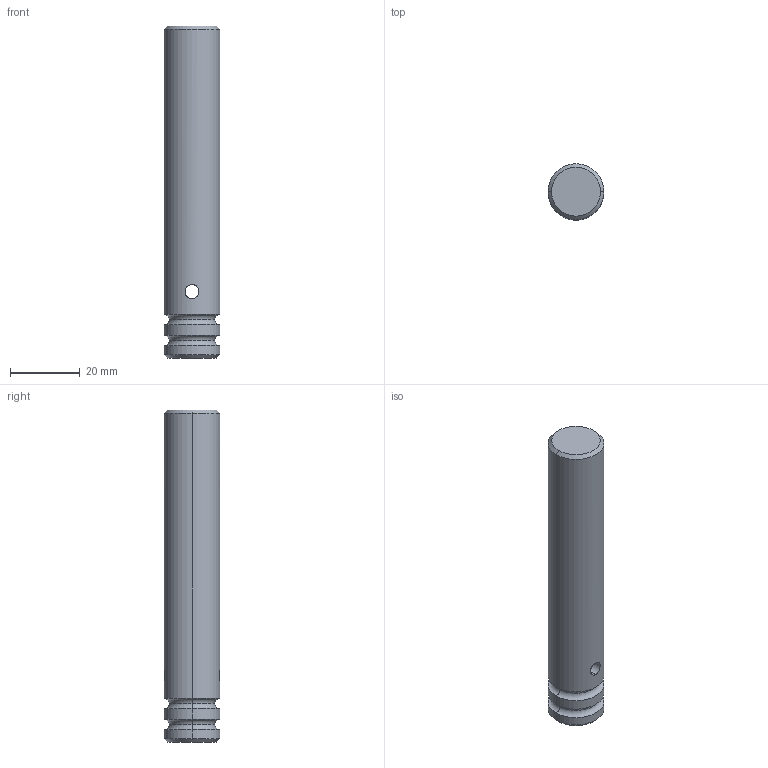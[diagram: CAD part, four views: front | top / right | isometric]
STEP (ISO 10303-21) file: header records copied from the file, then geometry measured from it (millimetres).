
FILE_DESCRIPTION (( 'STEP AP214' ), '1' );
FILE_NAME ('Bolzen Matritzehalter.STEP', '2016-12-28T08:51:16', ( '' ), ( '' ), 'SwSTEP 2.0', 'SolidWorks 2016', '' );
FILE_SCHEMA (( 'AUTOMOTIVE_DESIGN' ));
Length unit declared in the file: millimetre
Products named in the file (1): Bolzen Matritzehalter
Bounding box: 16 x 16 x 95 mm (x, y, z)
Volume: 18526.2 mm3; surface area: 5404 mm2
Topology: 1 solids, 1 shells, 22 faces, 44 edges, 24 vertices
Faces by surface type: torus 8, cylinder 8, cone 4, plane 2
Entity records: 706 total; most frequent: CARTESIAN_POINT 199, DIRECTION 114, ORIENTED_EDGE 88, AXIS2_PLACEMENT_3D 51, EDGE_CURVE 44, CIRCLE 28, EDGE_LOOP 24, VERTEX_POINT 24
